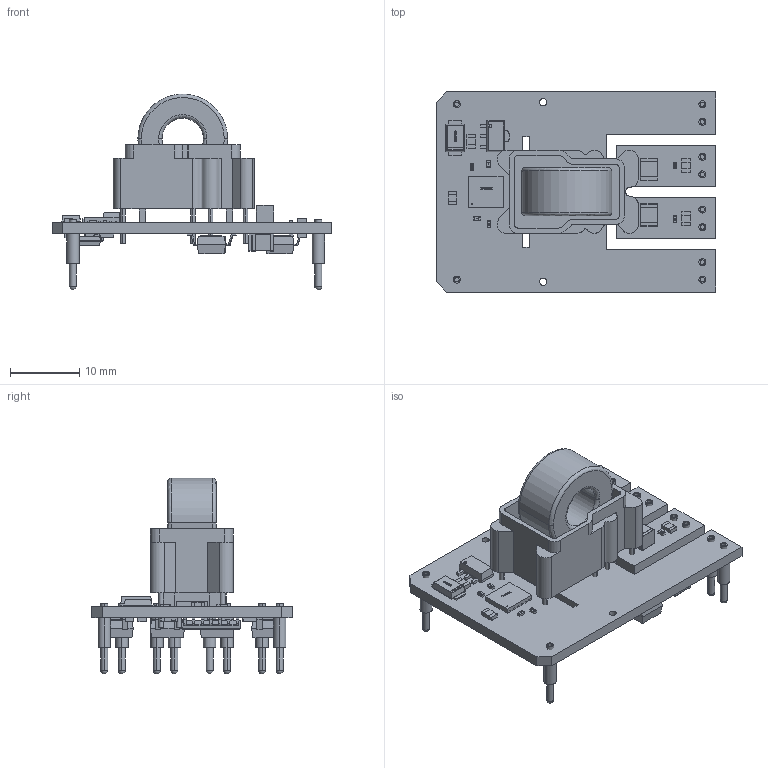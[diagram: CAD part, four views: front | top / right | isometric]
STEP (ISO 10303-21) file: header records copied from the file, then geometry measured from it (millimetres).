
FILE_DESCRIPTION(('for SolidWorks'),'2;1');
FILE_NAME('E:\Google Drive\03 Research & Development Projects\01 DCDC Converter for Gate Drives\07 3D Modeling\STEP\DC4CH.step', '2015-07-22T16:40:54',('ghayurshah'),(''), 'Open CASCADE STEP processor 6.6','Diptrace','Unknown');
FILE_SCHEMA(('AUTOMOTIVE_DESIGN { 1 0 10303 214 1 1 1 1 }'));
Length unit declared in the file: millimetre
Products named in the file (15): PCB; Board; Model_2; Model_13; Model_21; Model_25; Model_27; Model_29; Model_34; Model_39; Model_49; Model_51; Model_53; Model_55; Model_57
Assembly tree (45 placements, depth 2):
  PCB
    Board
    Model_2  x10
    Model_13  x7
    Model_21  x3
    Model_25
    Model_27
    Model_29  x4
    Model_34  x4
    Model_39  x9
    Model_49
    Model_51
    Model_53
    Model_55
    Model_57
Bounding box: 40.5 x 29 x 28.36 mm (x, y, z)
Volume: 1718.8 mm3; surface area: 6327.4 mm2
Topology: 1 solids, 79 shells, 2947 faces, 7315 edges, 4564 vertices
Faces by surface type: plane 1838, cylinder 525, bspline 450, sphere 130, torus 4
Full cylindrical faces by diameter (mm): 1.05 x2
Entity records: 54459 total; most frequent: CARTESIAN_POINT 16533, ORIENTED_EDGE 6212, DIRECTION 5522, EDGE_CURVE 3106, LINE 2274, VECTOR 2274, VERTEX_POINT 1964, AXIS2_PLACEMENT_3D 1624
